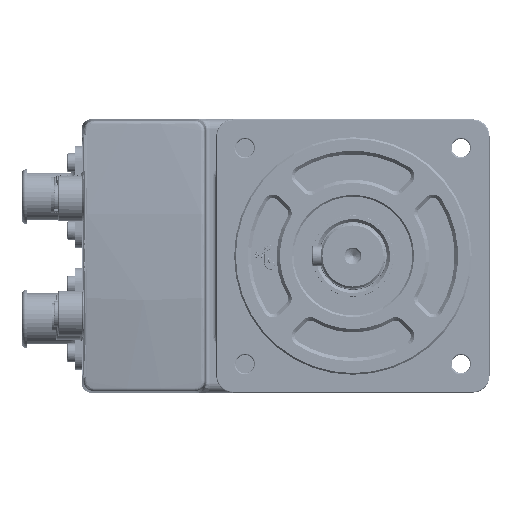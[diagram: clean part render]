
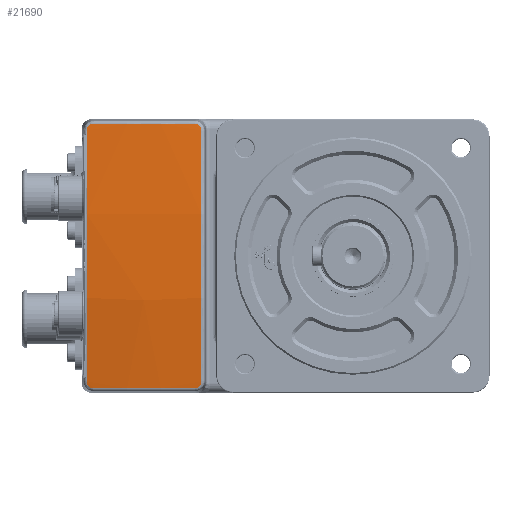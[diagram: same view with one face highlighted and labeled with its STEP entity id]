
A CAD part, left-side view. The second image highlights one B-rep face of the part: STEP entity #21690.
In plain terms, the highlighted spherical face has radius 300 mm.
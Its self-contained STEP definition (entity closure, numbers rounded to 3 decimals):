
#3518=CARTESIAN_POINT('',(-36.961,44.655,
-81.793));
#3525=CARTESIAN_POINT('',(36.961,44.655,-81.793));
#3539=CARTESIAN_POINT('',(0.,42.058,-379.459));
#3540=DIRECTION('',(0.,-1.,0.009));
#3541=DIRECTION('',(0.123,0.009,0.992));
#3542=AXIS2_PLACEMENT_3D('',#3539,#3540,#3541);
#3544=CARTESIAN_POINT('',(-38.97,46.66,
-82.042));
#3545=CARTESIAN_POINT('',(-38.97,46.486,
-82.042));
#3546=CARTESIAN_POINT('',(-38.926,46.149,
-82.037));
#3547=CARTESIAN_POINT('',(-38.725,45.651,
-82.012));
#3548=CARTESIAN_POINT('',(-38.402,45.23,
-81.972));
#3549=CARTESIAN_POINT('',(-37.981,44.904,
-81.919));
#3550=CARTESIAN_POINT('',(-37.479,44.699,
-81.857));
#3551=CARTESIAN_POINT('',(-37.137,44.655,
-81.814));
#3552=CARTESIAN_POINT('',(-36.961,44.655,
-81.793));
#3554=CARTESIAN_POINT('',(-36.976,78.459,
-83.486));
#3555=CARTESIAN_POINT('',(-37.107,78.459,
-83.503));
#3556=CARTESIAN_POINT('',(-37.37,78.433,
-83.533));
#3557=CARTESIAN_POINT('',(-37.686,78.338,
-83.563));
#3558=CARTESIAN_POINT('',(-37.923,78.226,
-83.581));
#3559=CARTESIAN_POINT('',(-38.093,78.124,
-83.592));
#3560=CARTESIAN_POINT('',(-38.252,78.006,
-83.6));
#3561=CARTESIAN_POINT('',(-38.446,77.831,
-83.607));
#3562=CARTESIAN_POINT('',(-38.658,77.573,
-83.607));
#3563=CARTESIAN_POINT('',(-38.812,77.284,
-83.597));
#3564=CARTESIAN_POINT('',(-38.901,77.035,
-83.584));
#3565=CARTESIAN_POINT('',(-38.964,76.779,
-83.566));
#3566=CARTESIAN_POINT('',(-38.983,76.585,
-83.549));
#3567=CARTESIAN_POINT('',(-38.983,76.452,
-83.535));
#3569=CARTESIAN_POINT('',(38.983,76.452,-83.535));
#3570=CARTESIAN_POINT('',(38.983,76.584,-83.549));
#3571=CARTESIAN_POINT('',(38.957,76.848,-83.572));
#3572=CARTESIAN_POINT('',(38.861,77.164,-83.592));
#3573=CARTESIAN_POINT('',(38.749,77.401,-83.601));
#3574=CARTESIAN_POINT('',(38.647,77.572,-83.606));
#3575=CARTESIAN_POINT('',(38.529,77.73,-83.607));
#3576=CARTESIAN_POINT('',(38.353,77.924,-83.604));
#3577=CARTESIAN_POINT('',(38.094,78.135,-83.593));
#3578=CARTESIAN_POINT('',(37.806,78.288,-83.573));
#3579=CARTESIAN_POINT('',(37.557,78.377,-83.551));
#3580=CARTESIAN_POINT('',(37.302,78.44,-83.525));
#3581=CARTESIAN_POINT('',(37.108,78.459,-83.503));
#3582=CARTESIAN_POINT('',(36.976,78.459,-83.486));
#3584=CARTESIAN_POINT('',(36.961,44.655,-81.793));
#3585=CARTESIAN_POINT('',(37.138,44.655,-81.815));
#3586=CARTESIAN_POINT('',(37.479,44.7,-81.857));
#3587=CARTESIAN_POINT('',(37.981,44.904,-81.919));
#3588=CARTESIAN_POINT('',(38.402,45.23,-81.972));
#3589=CARTESIAN_POINT('',(38.725,45.651,-82.012));
#3590=CARTESIAN_POINT('',(38.927,46.149,-82.037));
#3591=CARTESIAN_POINT('',(38.97,46.486,-82.042));
#3592=CARTESIAN_POINT('',(38.97,46.66,-82.042));
#3599=CARTESIAN_POINT('',(-41.563,46.7,-379.137));
#3600=DIRECTION('',(1.,0.,-0.009));
#3601=DIRECTION('',(0.009,0.1,0.995));
#3602=AXIS2_PLACEMENT_3D('',#3599,#3600,#3601);
#3627=CARTESIAN_POINT('',(0.,81.039,-379.2));
#3628=DIRECTION('',(0.,-1.,-0.009));
#3629=DIRECTION('',(0.124,-0.009,0.992));
#3630=AXIS2_PLACEMENT_3D('',#3627,#3628,#3629);
#3991=CARTESIAN_POINT('',(41.563,46.7,-379.137));
#3992=DIRECTION('',(1.,0.,0.009));
#3993=DIRECTION('',(-0.009,0.1,0.995));
#3994=AXIS2_PLACEMENT_3D('',#3991,#3992,#3993);
#14396=CARTESIAN_POINT('',(-36.976,78.459,
-83.486));
#14398=VERTEX_POINT('',#14396);
#14400=CARTESIAN_POINT('',(38.983,76.452,
-83.535));
#14401=CARTESIAN_POINT('',(38.97,46.66,
-82.042));
#14402=VERTEX_POINT('',#14400);
#14403=VERTEX_POINT('',#14401);
#14471=VERTEX_POINT('',#3525);
#14528=CARTESIAN_POINT('',(-38.97,46.66,
-82.042));
#14530=VERTEX_POINT('',#14528);
#14626=CARTESIAN_POINT('',(36.976,78.459,
-83.486));
#14628=VERTEX_POINT('',#14626);
#14684=VERTEX_POINT('',#3518);
#14693=CARTESIAN_POINT('',(-38.983,76.452,
-83.535));
#14695=VERTEX_POINT('',#14693);
#21670=CARTESIAN_POINT('',(0.,46.7,-379.5));
#21671=DIRECTION('',(1.,0.,0.));
#21672=DIRECTION('',(0.,1.,0.));
#21673=AXIS2_PLACEMENT_3D('',#21670,#21671,#21672);
#21674=SPHERICAL_SURFACE('',#21673,300.);
#21675=ORIENTED_EDGE('',*,*,#21504,.T.);
#21676=ORIENTED_EDGE('',*,*,#21475,.F.);
#21678=ORIENTED_EDGE('',*,*,#21677,.F.);
#21680=ORIENTED_EDGE('',*,*,#21679,.F.);
#21682=ORIENTED_EDGE('',*,*,#21681,.F.);
#21684=ORIENTED_EDGE('',*,*,#21683,.F.);
#21686=ORIENTED_EDGE('',*,*,#21685,.T.);
#21687=ORIENTED_EDGE('',*,*,#21649,.F.);
#21688=EDGE_LOOP('',(#21675,#21676,#21678,#21680,#21682,#21684,#21686,#21687));
#21689=FACE_OUTER_BOUND('',#21688,.F.);
#3543=CIRCLE('',#3542,299.964);
#3553=B_SPLINE_CURVE_WITH_KNOTS('',3,(#3544,#3545,#3546,#3547,#3548,#3549,#3550,
#3551,#3552),.UNSPECIFIED.,.F.,.F.,(4,1,1,1,1,1,4),(0.,0.167,
0.333,0.5,0.667,0.833,1.),
.UNSPECIFIED.);
#3568=B_SPLINE_CURVE_WITH_KNOTS('',3,(#3554,#3555,#3556,#3557,#3558,#3559,#3560,
#3561,#3562,#3563,#3564,#3565,#3566,#3567),.UNSPECIFIED.,.F.,.F.,(4,1,1,1,1,1,1,
1,1,1,1,4),(0.,0.125,0.25,0.313,0.375,0.438,0.5,0.625,0.75,
0.813,0.875,1.),.UNSPECIFIED.);
#3583=B_SPLINE_CURVE_WITH_KNOTS('',3,(#3569,#3570,#3571,#3572,#3573,#3574,#3575,
#3576,#3577,#3578,#3579,#3580,#3581,#3582),.UNSPECIFIED.,.F.,.F.,(4,1,1,1,1,1,1,
1,1,1,1,4),(0.,0.125,0.25,0.313,0.375,0.438,0.5,0.625,0.75,
0.813,0.875,1.),.UNSPECIFIED.);
#3593=B_SPLINE_CURVE_WITH_KNOTS('',3,(#3584,#3585,#3586,#3587,#3588,#3589,#3590,
#3591,#3592),.UNSPECIFIED.,.F.,.F.,(4,1,1,1,1,1,4),(0.,0.167,
0.333,0.5,0.667,0.833,1.),
.UNSPECIFIED.);
#3603=CIRCLE('',#3602,297.107);
#3631=CIRCLE('',#3630,298.028);
#3995=CIRCLE('',#3994,297.107);
#21475=EDGE_CURVE('',#14530,#14684,#3553,.T.);
#21504=EDGE_CURVE('',#14471,#14684,#3543,.T.);
#21649=EDGE_CURVE('',#14471,#14403,#3593,.T.);
#21677=EDGE_CURVE('',#14695,#14530,#3603,.T.);
#21679=EDGE_CURVE('',#14398,#14695,#3568,.T.);
#21681=EDGE_CURVE('',#14628,#14398,#3631,.T.);
#21683=EDGE_CURVE('',#14402,#14628,#3583,.T.);
#21685=EDGE_CURVE('',#14402,#14403,#3995,.T.);
#21690=ADVANCED_FACE('',(#21689),#21674,.T.);
